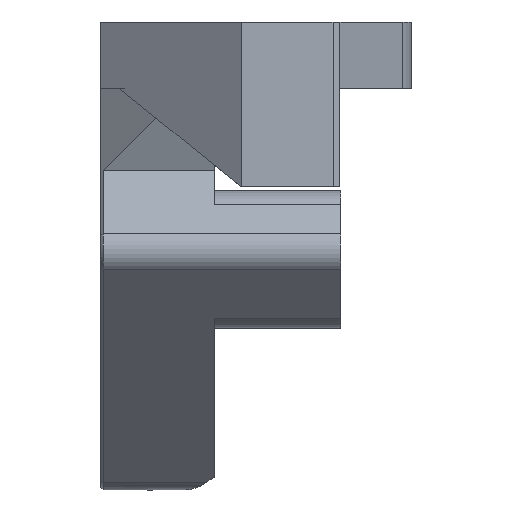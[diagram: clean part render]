
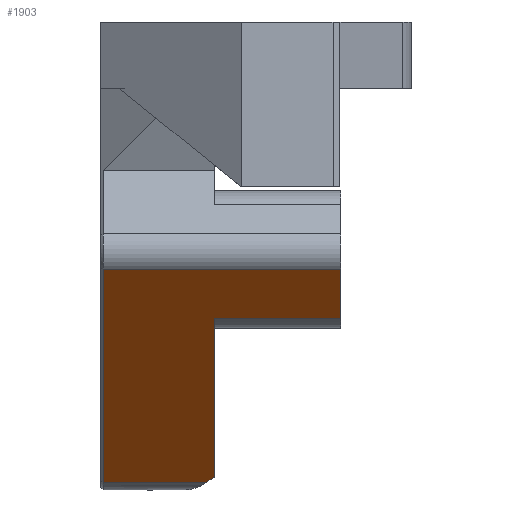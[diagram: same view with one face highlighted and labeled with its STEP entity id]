
A CAD part, left-side view. The second image highlights one B-rep face of the part: STEP entity #1903.
In plain terms, the highlighted planar face has unit normal (-0.707, 0, -0.707).
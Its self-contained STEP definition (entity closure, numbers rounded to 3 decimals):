
#16=ELLIPSE('',#2026,16.263,11.5);
#87=PLANE('',#2029);
#166=FACE_OUTER_BOUND('',#290,.T.);
#290=EDGE_LOOP('',(#1554,#1555,#1556,#1557,#1558,#1559,#1560));
#552=LINE('',#3819,#711);
#561=LINE('',#3860,#720);
#562=LINE('',#3864,#721);
#563=LINE('',#3866,#722);
#564=LINE('',#3868,#723);
#565=LINE('',#3869,#724);
#711=VECTOR('',#2298,10.);
#720=VECTOR('',#2327,2.133);
#721=VECTOR('',#2332,10.);
#722=VECTOR('',#2333,10.);
#723=VECTOR('',#2334,10.);
#724=VECTOR('',#2335,10.);
#916=VERTEX_POINT('',#3816);
#917=VERTEX_POINT('',#3818);
#926=VERTEX_POINT('',#3850);
#927=VERTEX_POINT('',#3859);
#928=VERTEX_POINT('',#3863);
#929=VERTEX_POINT('',#3865);
#930=VERTEX_POINT('',#3867);
#1140=EDGE_CURVE('',#917,#916,#552,.T.);
#1154=EDGE_CURVE('',#926,#917,#16,.T.);
#1156=EDGE_CURVE('',#926,#927,#561,.T.);
#1158=EDGE_CURVE('',#928,#916,#562,.T.);
#1159=EDGE_CURVE('',#929,#928,#563,.T.);
#1160=EDGE_CURVE('',#930,#929,#564,.T.);
#1161=EDGE_CURVE('',#927,#930,#565,.T.);
#1554=ORIENTED_EDGE('',*,*,#1154,.T.);
#1555=ORIENTED_EDGE('',*,*,#1140,.T.);
#1556=ORIENTED_EDGE('',*,*,#1158,.F.);
#1557=ORIENTED_EDGE('',*,*,#1159,.F.);
#1558=ORIENTED_EDGE('',*,*,#1160,.F.);
#1559=ORIENTED_EDGE('',*,*,#1161,.F.);
#1560=ORIENTED_EDGE('',*,*,#1156,.F.);
#1903=ADVANCED_FACE('',(#166),#87,.T.);
#2026=AXIS2_PLACEMENT_3D('',#3851,#2323,#2324);
#2029=AXIS2_PLACEMENT_3D('',#3862,#2330,#2331);
#2298=DIRECTION('',(-0.707,0.,0.707));
#2323=DIRECTION('center_axis',(0.707,0.,0.707));
#2324=DIRECTION('ref_axis',(-0.707,0.,0.707));
#2327=DIRECTION('',(0.,1.,0.));
#2330=DIRECTION('center_axis',(-0.707,0.,
-0.707));
#2331=DIRECTION('ref_axis',(0.707,0.,-0.707));
#2332=DIRECTION('',(0.,1.,0.));
#2333=DIRECTION('',(0.707,0.,-0.707));
#2334=DIRECTION('',(0.,-1.,0.));
#2335=DIRECTION('',(-0.707,0.,0.707));
#3816=CARTESIAN_POINT('',(8.775,42.458,12.237));
#3818=CARTESIAN_POINT('',(22.432,42.458,-1.421));
#3819=CARTESIAN_POINT('',(6.651,42.458,14.36));
#3850=CARTESIAN_POINT('',(22.898,43.185,-1.887));
#3851=CARTESIAN_POINT('Origin',(32.34,36.62,-11.328));
#3859=CARTESIAN_POINT('',(22.898,52.008,-1.887));
#3860=CARTESIAN_POINT('',(22.898,50.261,-1.887));
#3862=CARTESIAN_POINT('Origin',(4.55,51.908,16.462));
#3863=CARTESIAN_POINT('',(8.775,31.62,12.237));
#3864=CARTESIAN_POINT('',(8.775,46.636,12.237));
#3865=CARTESIAN_POINT('',(4.55,31.62,16.462));
#3866=CARTESIAN_POINT('',(10.867,31.62,10.145));
#3867=CARTESIAN_POINT('',(4.55,52.008,16.462));
#3868=CARTESIAN_POINT('',(4.55,40.858,16.462));
#3869=CARTESIAN_POINT('',(10.867,52.008,10.145));
